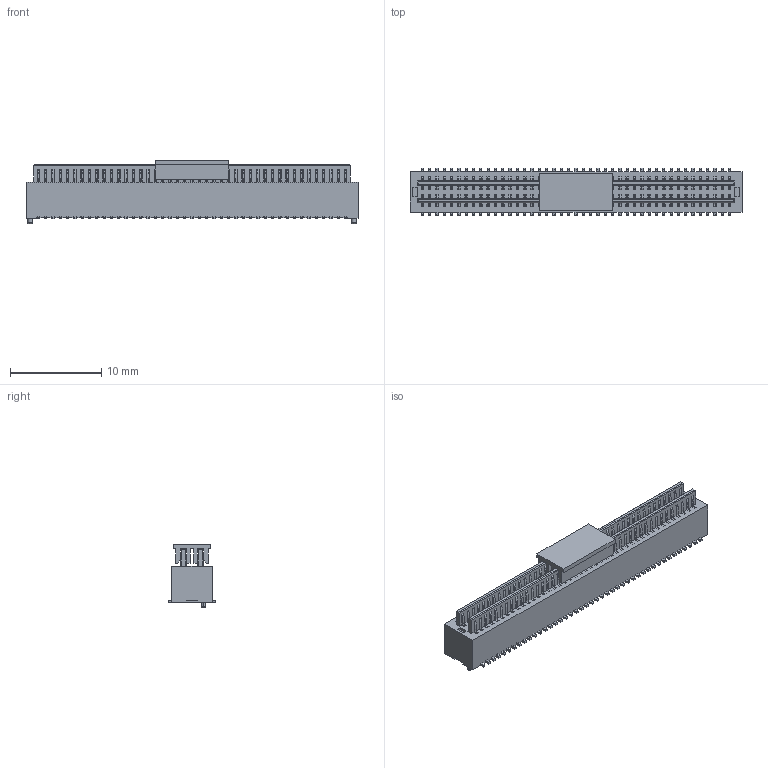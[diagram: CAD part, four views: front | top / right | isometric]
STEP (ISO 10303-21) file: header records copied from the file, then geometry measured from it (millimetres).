
FILE_DESCRIPTION (( 'STEP AP203' ), '1' );
FILE_NAME ('HC-PBB08-2-86-M-H4.0-G1-R-P-04(BTB0.8 双槽 公座 立贴 带柱 编带+盖)-HCTL.STEP', '2025-12-11T08:02:16', ( '' ), ( '' ), 'SwSTEP 2.0', 'SolidWorks 2025', '' );
FILE_SCHEMA (( 'CONFIG_CONTROL_DESIGN' ));
Products named in the file (1): HC-PBB08-2-86-M-H4.0-G1-R-P-04(BTB0.8 双槽 公座 立贴 带柱 编带+盖)-HCTL
Bounding box: 36.29 x 5.2 x 6.95 mm (x, y, z)
Volume: 720.2 mm3; surface area: 3315.2 mm2
Topology: 2 solids, 2 shells, 4982 faces, 16022 edges, 10448 vertices
Faces by surface type: plane 3254, cylinder 1724, torus 4
Entity records: 176977 total; most frequent: CARTESIAN_POINT 32485, ORIENTED_EDGE 32044, DIRECTION 29100, EDGE_CURVE 16022, LINE 12222, VECTOR 12222, VERTEX_POINT 10448, AXIS2_PLACEMENT_3D 8439
